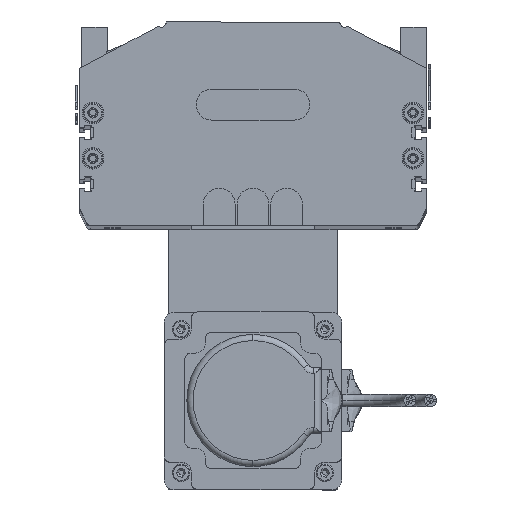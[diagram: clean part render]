
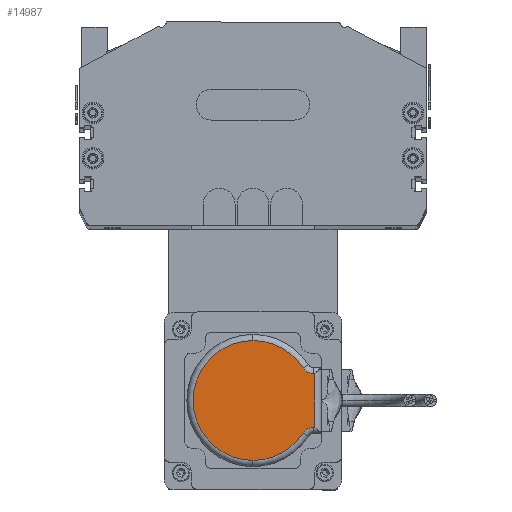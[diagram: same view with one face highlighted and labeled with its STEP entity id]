
A CAD part, top view. The second image highlights one B-rep face of the part: STEP entity #14987.
In plain terms, the highlighted planar face has unit normal (0, 0, 1).
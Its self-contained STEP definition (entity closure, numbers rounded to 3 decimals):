
#150 = DIRECTION ( 'NONE',  ( 0., 0., 1. ) ) ;
#161 = CARTESIAN_POINT ( 'NONE',  ( 33., 33., 26. ) ) ;
#162 = CIRCLE ( 'NONE', #187, 29. ) ;
#186 = DIRECTION ( 'NONE',  ( 1., 0., 0. ) ) ;
#187 = AXIS2_PLACEMENT_3D ( 'NONE', #161, #150, #186 ) ;
#14738 = EDGE_CURVE ( 'NONE', #15037, #14824, #66038, .T. ) ;
#14743 = EDGE_CURVE ( 'NONE', #15037, #15035, #66077, .T. ) ;
#14745 = ORIENTED_EDGE ( 'NONE', *, *, #14882, .T. ) ;
#14749 = ORIENTED_EDGE ( 'NONE', *, *, #14743, .F. ) ;
#14824 = VERTEX_POINT ( 'NONE', #66094 ) ;
#14825 = ORIENTED_EDGE ( 'NONE', *, *, #14836, .T. ) ;
#14836 = EDGE_CURVE ( 'NONE', #14944, #15035, #66112, .T. ) ;
#14853 = VERTEX_POINT ( 'NONE', #66144 ) ;
#14854 = EDGE_CURVE ( 'NONE', #14885, #14892, #66149, .T. ) ;
#14855 = ORIENTED_EDGE ( 'NONE', *, *, #14950, .T. ) ;
#14882 = EDGE_CURVE ( 'NONE', #14853, #14892, #66198, .T. ) ;
#14885 = VERTEX_POINT ( 'NONE', #66191 ) ;
#14890 = EDGE_LOOP ( 'NONE', ( #15042, #14988, #14855, #14825, #14749, #15053, #14913, #14745 ) ) ;
#14892 = VERTEX_POINT ( 'NONE', #66187 ) ;
#14897 = EDGE_CURVE ( 'NONE', #14824, #14853, #66266, .T. ) ;
#14913 = ORIENTED_EDGE ( 'NONE', *, *, #14897, .T. ) ;
#14944 = VERTEX_POINT ( 'NONE', #15265 ) ;
#14950 = EDGE_CURVE ( 'NONE', #14978, #14944, #15240, .T. ) ;
#14978 = VERTEX_POINT ( 'NONE', #15338 ) ;
#14987 = ADVANCED_FACE ( 'NONE', ( #15337 ), #15356, .T. ) ;
#14988 = ORIENTED_EDGE ( 'NONE', *, *, #15101, .T. ) ;
#15035 = VERTEX_POINT ( 'NONE', #15400 ) ;
#15037 = VERTEX_POINT ( 'NONE', #15392 ) ;
#15042 = ORIENTED_EDGE ( 'NONE', *, *, #14854, .F. ) ;
#15053 = ORIENTED_EDGE ( 'NONE', *, *, #14738, .T. ) ;
#15101 = EDGE_CURVE ( 'NONE', #14885, #14978, #162, .T. ) ;
#15240 = CIRCLE ( 'NONE', #15315, 29. ) ;
#15265 = CARTESIAN_POINT ( 'NONE',  ( 62., 33., 26. ) ) ;
#15300 = DIRECTION ( 'NONE',  ( 1., 0., 0. ) ) ;
#15301 = DIRECTION ( 'NONE',  ( 0., 0., 1. ) ) ;
#15302 = CARTESIAN_POINT ( 'NONE',  ( 33., 33., 26. ) ) ;
#15315 = AXIS2_PLACEMENT_3D ( 'NONE', #15302, #15301, #15300 ) ;
#15337 = FACE_OUTER_BOUND ( 'NONE', #14890, .T. ) ;
#15338 = CARTESIAN_POINT ( 'NONE',  ( 4., 33., 26. ) ) ;
#15350 = DIRECTION ( 'NONE',  ( 1., 0., 0. ) ) ;
#15351 = DIRECTION ( 'NONE',  ( 0., 0., 1. ) ) ;
#15353 = CARTESIAN_POINT ( 'NONE',  ( 33., 33., 26. ) ) ;
#15354 = AXIS2_PLACEMENT_3D ( 'NONE', #15353, #15351, #15350 ) ;
#15356 = PLANE ( 'NONE',  #15354 ) ;
#15392 = CARTESIAN_POINT ( 'NONE',  ( 46., 62.394, 26. ) ) ;
#15400 = CARTESIAN_POINT ( 'NONE',  ( 48.743, 57.355, 26. ) ) ;
#66037 = CARTESIAN_POINT ( 'NONE',  ( 46., 33., 26. ) ) ;
#66038 = LINE ( 'NONE', #66037, #66055 ) ;
#66055 = VECTOR ( 'NONE', #66080, 1000. ) ;
#66070 = DIRECTION ( 'NONE',  ( 1., 0., 0. ) ) ;
#66071 = DIRECTION ( 'NONE',  ( 0., 0., 1. ) ) ;
#66077 = CIRCLE ( 'NONE', #66088, 6. ) ;
#66080 = DIRECTION ( 'NONE',  ( 0., 1., 0. ) ) ;
#66083 = CARTESIAN_POINT ( 'NONE',  ( 52., 62.394, 26. ) ) ;
#66088 = AXIS2_PLACEMENT_3D ( 'NONE', #66083, #66071, #66070 ) ;
#66094 = CARTESIAN_POINT ( 'NONE',  ( 46., 63., 26. ) ) ;
#66112 = CIRCLE ( 'NONE', #66153, 29. ) ;
#66127 = DIRECTION ( 'NONE',  ( 1., 0., 0. ) ) ;
#66128 = DIRECTION ( 'NONE',  ( 0., 0., 1. ) ) ;
#66129 = CARTESIAN_POINT ( 'NONE',  ( 14., 62.394, 26. ) ) ;
#66139 = AXIS2_PLACEMENT_3D ( 'NONE', #66129, #66128, #66127 ) ;
#66144 = CARTESIAN_POINT ( 'NONE',  ( 20., 63., 26. ) ) ;
#66149 = CIRCLE ( 'NONE', #66139, 6. ) ;
#66150 = DIRECTION ( 'NONE',  ( 1., 0., 0. ) ) ;
#66151 = DIRECTION ( 'NONE',  ( 0., 0., 1. ) ) ;
#66152 = CARTESIAN_POINT ( 'NONE',  ( 33., 33., 26. ) ) ;
#66153 = AXIS2_PLACEMENT_3D ( 'NONE', #66152, #66151, #66150 ) ;
#66187 = CARTESIAN_POINT ( 'NONE',  ( 20., 62.394, 26. ) ) ;
#66189 = DIRECTION ( 'NONE',  ( 0., -1., 0. ) ) ;
#66190 = VECTOR ( 'NONE', #66189, 1000. ) ;
#66191 = CARTESIAN_POINT ( 'NONE',  ( 17.257, 57.355, 26. ) ) ;
#66197 = CARTESIAN_POINT ( 'NONE',  ( 20., 33., 26. ) ) ;
#66198 = LINE ( 'NONE', #66197, #66190 ) ;
#66260 = DIRECTION ( 'NONE',  ( -1., 0., 0. ) ) ;
#66261 = VECTOR ( 'NONE', #66260, 1000. ) ;
#66262 = CARTESIAN_POINT ( 'NONE',  ( 17.5, 63., 26. ) ) ;
#66266 = LINE ( 'NONE', #66262, #66261 ) ;
